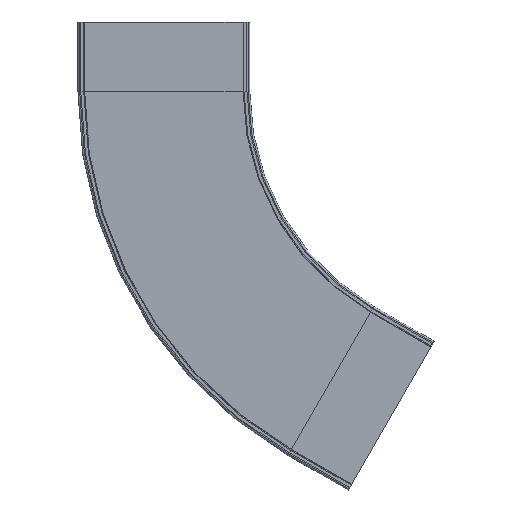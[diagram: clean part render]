
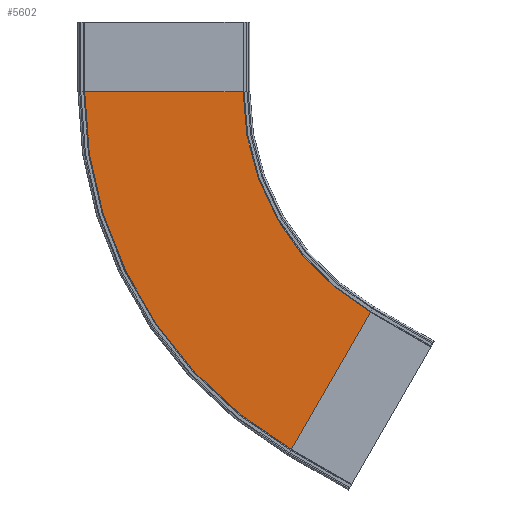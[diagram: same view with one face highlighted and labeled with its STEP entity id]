
A CAD part, front view. The second image highlights one B-rep face of the part: STEP entity #5602.
In plain terms, the highlighted planar face has unit normal (0, -1, 0).
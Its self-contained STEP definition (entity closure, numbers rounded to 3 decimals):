
#311 = AXIS2_PLACEMENT_3D ( 'NONE', #9694, #1407, #11088 ) ;
#861 = DIRECTION ( 'NONE',  ( 0., 0., 1. ) ) ;
#870 = EDGE_CURVE ( 'NONE', #15448, #15655, #7393, .T. ) ;
#1341 = CARTESIAN_POINT ( 'NONE',  ( 227.6, -76.7, -200. ) ) ;
#1407 = DIRECTION ( 'NONE',  ( 0., 1., 0. ) ) ;
#1505 = VECTOR ( 'NONE', #6603, 1000. ) ;
#2265 = EDGE_CURVE ( 'NONE', #15448, #4582, #7111, .T. ) ;
#2771 = DIRECTION ( 'NONE',  ( 0., 1., 0. ) ) ;
#2820 = CARTESIAN_POINT ( 'NONE',  ( 960., -76.7, -200. ) ) ;
#3434 = CARTESIAN_POINT ( 'NONE',  ( 366.2, -76.7, -1228.492 ) ) ;
#4582 = VERTEX_POINT ( 'NONE', #10109 ) ;
#5295 = EDGE_CURVE ( 'NONE', #9363, #4582, #14962, .T. ) ;
#5602 = ADVANCED_FACE ( 'NONE', ( #16695 ), #6379, .F. ) ;
#6086 = ORIENTED_EDGE ( 'NONE', *, *, #870, .T. ) ;
#6140 = ORIENTED_EDGE ( 'NONE', *, *, #17484, .T. ) ;
#6379 = PLANE ( 'NONE',  #10942 ) ;
#6603 = DIRECTION ( 'NONE',  ( -1., 0., 0. ) ) ;
#7111 = CIRCLE ( 'NONE', #14948, 1187.6 ) ;
#7393 = LINE ( 'NONE', #3434, #13025 ) ;
#7404 = EDGE_LOOP ( 'NONE', ( #15849, #8396, #6086, #6140 ) ) ;
#7705 = CARTESIAN_POINT ( 'NONE',  ( 366.2, -76.7, -1228.492 ) ) ;
#8078 = CIRCLE ( 'NONE', #311, 732.4 ) ;
#8396 = ORIENTED_EDGE ( 'NONE', *, *, #2265, .F. ) ;
#9184 = DIRECTION ( 'NONE',  ( 0., 1., 0. ) ) ;
#9363 = VERTEX_POINT ( 'NONE', #1341 ) ;
#9694 = CARTESIAN_POINT ( 'NONE',  ( 960., -76.7, -200. ) ) ;
#10109 = CARTESIAN_POINT ( 'NONE',  ( -227.6, -76.7, -200. ) ) ;
#10942 = AXIS2_PLACEMENT_3D ( 'NONE', #7705, #9184, #861 ) ;
#11088 = DIRECTION ( 'NONE',  ( 0., 0., 1. ) ) ;
#13025 = VECTOR ( 'NONE', #13352, 1000. ) ;
#13352 = DIRECTION ( 'NONE',  ( 0.5, 0., 0.866 ) ) ;
#13711 = DIRECTION ( 'NONE',  ( 0., 0., 1. ) ) ;
#14906 = CARTESIAN_POINT ( 'NONE',  ( 0., -76.7, -200. ) ) ;
#14948 = AXIS2_PLACEMENT_3D ( 'NONE', #2820, #2771, #13711 ) ;
#14962 = LINE ( 'NONE', #14906, #1505 ) ;
#15448 = VERTEX_POINT ( 'NONE', #16325 ) ;
#15655 = VERTEX_POINT ( 'NONE', #16846 ) ;
#15849 = ORIENTED_EDGE ( 'NONE', *, *, #5295, .T. ) ;
#16325 = CARTESIAN_POINT ( 'NONE',  ( 366.2, -76.7, -1228.492 ) ) ;
#16695 = FACE_OUTER_BOUND ( 'NONE', #7404, .T. ) ;
#16846 = CARTESIAN_POINT ( 'NONE',  ( 593.8, -76.7, -834.277 ) ) ;
#17484 = EDGE_CURVE ( 'NONE', #15655, #9363, #8078, .T. ) ;
